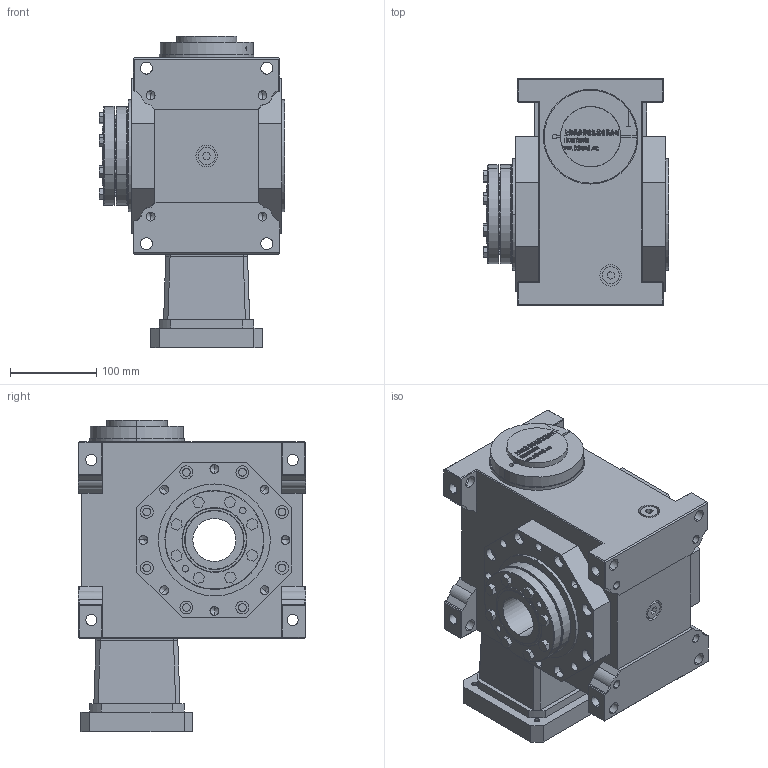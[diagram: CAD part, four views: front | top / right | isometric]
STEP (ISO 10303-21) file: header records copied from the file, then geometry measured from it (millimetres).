
FILE_DESCRIPTION (( 'STEP AP203' ), '1' );
FILE_NAME ('FXLB090-(5~90)-C2-24-110-145-M8.step', '2022-11-05T14:10:15', ( '' ), ( '' ), 'SwSTEP 2.0', 'SolidWorks 2020', '' );
FILE_SCHEMA (( 'CONFIG_CONTROL_DESIGN' ));
Length unit declared in the file: millimetre
Products named in the file (9): ______BD68-73.3-28-24____.step; 錨璃19^FXLB090-(5~90)-C2-24-110-145-M8; JDLB090-C1________50.step; JDLB090-C1______-68-115-28.step; ST130-110-145-M8____________.step; FXLB090-(5~90)-C2-24-110-145-M8; FXLB090-(5~90)-C2-24-110-145-M8.step; JDLB090-ST110________1.step; JDLB090-CR____.step
Assembly tree (8 placements, depth 3):
  FXLB090-(5~90)-C2-24-110-145-M8
    FXLB090-(5~90)-C2-24-110-145-M8.step
      JDLB090-CR____.step
      JDLB090-C1________50.step
      JDLB090-ST110________1.step
      ST130-110-145-M8____________.step
      JDLB090-C1______-68-115-28.step
      ______BD68-73.3-28-24____.step
    錨璃19^FXLB090-(5~90)-C2-24-110-145-M8
Bounding box: 216 x 264 x 362.2 mm (x, y, z)
Volume: 9780626 mm3; surface area: 760089 mm2
Topology: 84 solids, 84 shells, 2722 faces, 7118 edges, 4641 vertices
Faces by surface type: plane 1585, bspline 572, cylinder 429, cone 104, torus 32
Entity records: 110308 total; most frequent: CARTESIAN_POINT 45804, ORIENTED_EDGE 14096, DIRECTION 11164, EDGE_CURVE 7048, LINE 4826, VECTOR 4826, VERTEX_POINT 4641, AXIS2_PLACEMENT_3D 3169
